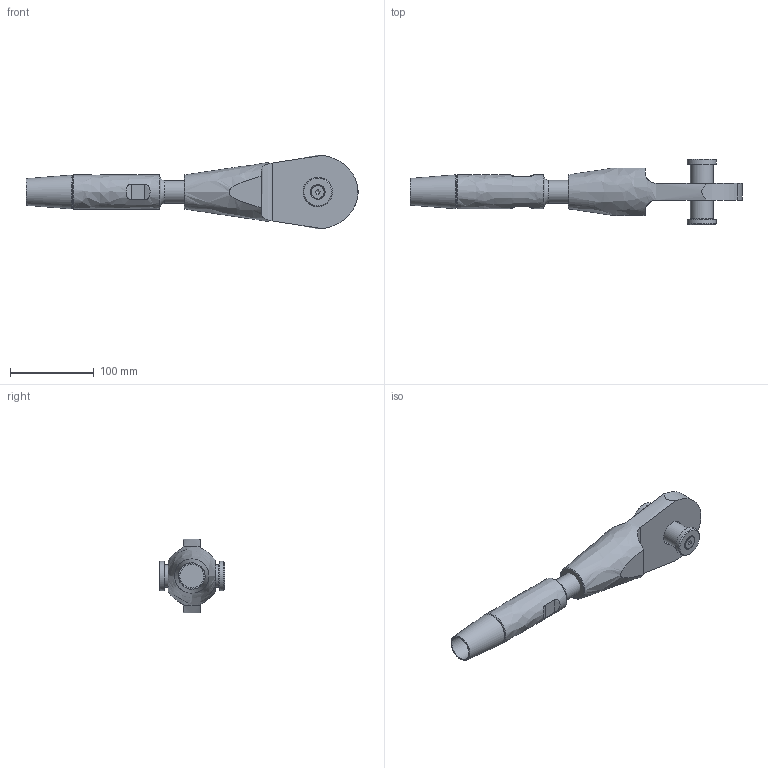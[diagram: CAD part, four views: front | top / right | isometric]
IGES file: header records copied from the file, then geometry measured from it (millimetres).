
Global section: file name: 520-027-OES-ADA; native system: Autodesk Inventor 2020; preprocessor: unknown; author: Administrator; date: 20201007.153458; units: millimetre
Bounding box: 395.44 x 78.51 x 88.03 mm (x, y, z)
Volume: 634348.9 mm3; surface area: 87834.8 mm2
Topology: 6 solids, 6 shells, 63 faces, 152 edges, 106 vertices
Faces by surface type: bspline 63
